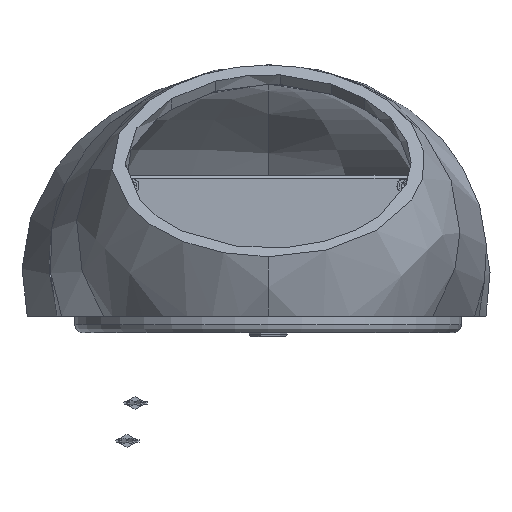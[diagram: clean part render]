
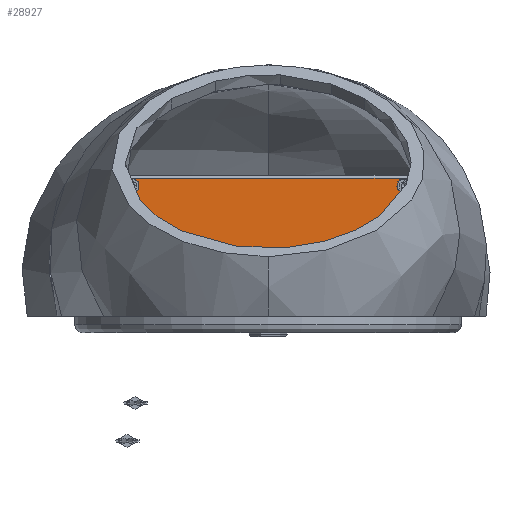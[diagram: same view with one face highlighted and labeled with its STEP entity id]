
A CAD part, front view. The second image highlights one B-rep face of the part: STEP entity #28927.
In plain terms, the highlighted planar face has unit normal (0, -1, 0) as drawn and (0, 1, 0) by its records, which use the part's own axes.
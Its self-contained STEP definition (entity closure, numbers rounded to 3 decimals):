
#1151 = EDGE_CURVE ( 'NONE', #33250, #29662, #21675, .T. ) ;
#2011 = VERTEX_POINT ( 'NONE', #2332 ) ;
#2168 = VECTOR ( 'NONE', #46007, 1000. ) ;
#2283 = DIRECTION ( 'NONE',  ( 0., -1., 0. ) ) ;
#2332 = CARTESIAN_POINT ( 'NONE',  ( 51., 3., 18.5 ) ) ;
#2450 = EDGE_CURVE ( 'NONE', #37664, #33238, #15255, .T. ) ;
#3243 = DIRECTION ( 'NONE',  ( -1., 0., 0. ) ) ;
#3555 = VECTOR ( 'NONE', #3243, 1000. ) ;
#4041 = ORIENTED_EDGE ( 'NONE', *, *, #5287, .T. ) ;
#4498 = EDGE_CURVE ( 'NONE', #12082, #55182, #43255, .T. ) ;
#4749 = DIRECTION ( 'NONE',  ( 0., -1., 0. ) ) ;
#5287 = EDGE_CURVE ( 'NONE', #19242, #40463, #57740, .T. ) ;
#5892 = DIRECTION ( 'NONE',  ( 1., 0., 0. ) ) ;
#6060 = FACE_BOUND ( 'NONE', #42943, .T. ) ;
#6928 = DIRECTION ( 'NONE',  ( 0., 0., 1. ) ) ;
#7428 = EDGE_LOOP ( 'NONE', ( #51309, #27679 ) ) ;
#7817 = DIRECTION ( 'NONE',  ( 0., 0., 1. ) ) ;
#8345 = DIRECTION ( 'NONE',  ( 0., 0., 1. ) ) ;
#8861 = FACE_OUTER_BOUND ( 'NONE', #27818, .T. ) ;
#9116 = VERTEX_POINT ( 'NONE', #21798 ) ;
#9618 = DIRECTION ( 'NONE',  ( 0., 0., 1. ) ) ;
#10289 = AXIS2_PLACEMENT_3D ( 'NONE', #43106, #25266, #6928 ) ;
#10939 = VERTEX_POINT ( 'NONE', #37206 ) ;
#11938 = DIRECTION ( 'NONE',  ( 0., 0., 1. ) ) ;
#12079 = CARTESIAN_POINT ( 'NONE',  ( 51., 3., 17.5 ) ) ;
#12082 = VERTEX_POINT ( 'NONE', #15704 ) ;
#13992 = ORIENTED_EDGE ( 'NONE', *, *, #26012, .T. ) ;
#14716 = CARTESIAN_POINT ( 'NONE',  ( 52., 3., -35.5 ) ) ;
#14767 = ORIENTED_EDGE ( 'NONE', *, *, #48207, .T. ) ;
#15255 = CIRCLE ( 'NONE', #10289, 2.75 ) ;
#15704 = CARTESIAN_POINT ( 'NONE',  ( 49.2, 3., -28.95 ) ) ;
#15869 = FACE_BOUND ( 'NONE', #26449, .T. ) ;
#16906 = EDGE_CURVE ( 'NONE', #2011, #9116, #54394, .T. ) ;
#17315 = DIRECTION ( 'NONE',  ( 0., 1., 0. ) ) ;
#17405 = CARTESIAN_POINT ( 'NONE',  ( 49.2, 3., -31.7 ) ) ;
#17489 = ORIENTED_EDGE ( 'NONE', *, *, #28103, .T. ) ;
#17606 = EDGE_CURVE ( 'NONE', #22712, #10939, #27071, .T. ) ;
#17896 = FACE_BOUND ( 'NONE', #7428, .T. ) ;
#18094 = EDGE_LOOP ( 'NONE', ( #41344, #14767 ) ) ;
#19242 = VERTEX_POINT ( 'NONE', #45204 ) ;
#19245 = DIRECTION ( 'NONE',  ( 0., -1., 0. ) ) ;
#19855 = CIRCLE ( 'NONE', #32241, 2.75 ) ;
#20028 = DIRECTION ( 'NONE',  ( 0., 0., 1. ) ) ;
#20422 = CIRCLE ( 'NONE', #39471, 2.75 ) ;
#20701 = CARTESIAN_POINT ( 'NONE',  ( -49.2, 3., 15.7 ) ) ;
#21054 = DIRECTION ( 'NONE',  ( 0., 1., 0. ) ) ;
#21138 = ORIENTED_EDGE ( 'NONE', *, *, #30718, .T. ) ;
#21675 = LINE ( 'NONE', #55938, #3555 ) ;
#21784 = CARTESIAN_POINT ( 'NONE',  ( -49.2, 3., 15.7 ) ) ;
#21798 = CARTESIAN_POINT ( 'NONE',  ( 52., 3., 17.5 ) ) ;
#22466 = DIRECTION ( 'NONE',  ( 0., 0., 1. ) ) ;
#22712 = VERTEX_POINT ( 'NONE', #25868 ) ;
#22761 = ORIENTED_EDGE ( 'NONE', *, *, #1151, .T. ) ;
#24492 = LINE ( 'NONE', #14716, #2168 ) ;
#25266 = DIRECTION ( 'NONE',  ( 0., -1., 0. ) ) ;
#25868 = CARTESIAN_POINT ( 'NONE',  ( -49.2, 3., 12.95 ) ) ;
#26012 = EDGE_CURVE ( 'NONE', #9116, #33250, #24492, .T. ) ;
#26449 = EDGE_LOOP ( 'NONE', ( #34389, #41157 ) ) ;
#27071 = CIRCLE ( 'NONE', #47560, 2.75 ) ;
#27271 = AXIS2_PLACEMENT_3D ( 'NONE', #30896, #39920, #30126 ) ;
#27655 = CARTESIAN_POINT ( 'NONE',  ( -49.2, 3., -34.45 ) ) ;
#27679 = ORIENTED_EDGE ( 'NONE', *, *, #17606, .T. ) ;
#27818 = EDGE_LOOP ( 'NONE', ( #22761, #21138, #4041, #17489, #53334, #13992 ) ) ;
#28103 = EDGE_CURVE ( 'NONE', #40463, #2011, #37630, .T. ) ;
#28380 = VERTEX_POINT ( 'NONE', #56071 ) ;
#28673 = CIRCLE ( 'NONE', #35018, 2.75 ) ;
#28699 = CARTESIAN_POINT ( 'NONE',  ( 51., 3., 18.5 ) ) ;
#28927 = ADVANCED_FACE ( 'NONE', ( #6060, #17896, #8861, #15869, #32609 ), #38874, .T. ) ;
#29386 = CARTESIAN_POINT ( 'NONE',  ( 49.2, 3., -31.7 ) ) ;
#29662 = VERTEX_POINT ( 'NONE', #46122 ) ;
#30126 = DIRECTION ( 'NONE',  ( 0., 0., 1. ) ) ;
#30599 = VECTOR ( 'NONE', #5892, 1000. ) ;
#30718 = EDGE_CURVE ( 'NONE', #29662, #19242, #39735, .T. ) ;
#30750 = VERTEX_POINT ( 'NONE', #27655 ) ;
#30896 = CARTESIAN_POINT ( 'NONE',  ( 51., 3., 17.5 ) ) ;
#32241 = AXIS2_PLACEMENT_3D ( 'NONE', #53941, #4749, #9618 ) ;
#32609 = FACE_BOUND ( 'NONE', #18094, .T. ) ;
#33238 = VERTEX_POINT ( 'NONE', #51983 ) ;
#33250 = VERTEX_POINT ( 'NONE', #47553 ) ;
#33509 = AXIS2_PLACEMENT_3D ( 'NONE', #36485, #19245, #50519 ) ;
#34389 = ORIENTED_EDGE ( 'NONE', *, *, #34751, .T. ) ;
#34561 = CARTESIAN_POINT ( 'NONE',  ( -51., 3., 17.5 ) ) ;
#34751 = EDGE_CURVE ( 'NONE', #28380, #30750, #19855, .T. ) ;
#34947 = AXIS2_PLACEMENT_3D ( 'NONE', #12079, #21054, #42975 ) ;
#35018 = AXIS2_PLACEMENT_3D ( 'NONE', #17405, #35026, #22466 ) ;
#35026 = DIRECTION ( 'NONE',  ( 0., -1., 0. ) ) ;
#35057 = AXIS2_PLACEMENT_3D ( 'NONE', #29386, #2283, #20028 ) ;
#35830 = ORIENTED_EDGE ( 'NONE', *, *, #37734, .T. ) ;
#36485 = CARTESIAN_POINT ( 'NONE',  ( -49.2, 3., -31.7 ) ) ;
#36890 = CIRCLE ( 'NONE', #55555, 2.75 ) ;
#36901 = VECTOR ( 'NONE', #45904, 1000. ) ;
#37206 = CARTESIAN_POINT ( 'NONE',  ( -49.2, 3., 18.45 ) ) ;
#37630 = LINE ( 'NONE', #28699, #30599 ) ;
#37664 = VERTEX_POINT ( 'NONE', #53505 ) ;
#37734 = EDGE_CURVE ( 'NONE', #55182, #12082, #28673, .T. ) ;
#37758 = CARTESIAN_POINT ( 'NONE',  ( -51., 3., 18.5 ) ) ;
#38448 = DIRECTION ( 'NONE',  ( 0., 0., 1. ) ) ;
#38874 = PLANE ( 'NONE',  #34947 ) ;
#38924 = DIRECTION ( 'NONE',  ( 0., -1., 0. ) ) ;
#39361 = ORIENTED_EDGE ( 'NONE', *, *, #4498, .T. ) ;
#39471 = AXIS2_PLACEMENT_3D ( 'NONE', #43128, #56153, #38448 ) ;
#39735 = LINE ( 'NONE', #41582, #36901 ) ;
#39920 = DIRECTION ( 'NONE',  ( 0., 1., 0. ) ) ;
#40463 = VERTEX_POINT ( 'NONE', #37758 ) ;
#41157 = ORIENTED_EDGE ( 'NONE', *, *, #51682, .T. ) ;
#41344 = ORIENTED_EDGE ( 'NONE', *, *, #2450, .T. ) ;
#41582 = CARTESIAN_POINT ( 'NONE',  ( -52., 3., 17.5 ) ) ;
#42943 = EDGE_LOOP ( 'NONE', ( #39361, #35830 ) ) ;
#42975 = DIRECTION ( 'NONE',  ( 0., 0., 1. ) ) ;
#43106 = CARTESIAN_POINT ( 'NONE',  ( 49.2, 3., 15.7 ) ) ;
#43128 = CARTESIAN_POINT ( 'NONE',  ( 49.2, 3., 15.7 ) ) ;
#43255 = CIRCLE ( 'NONE', #35057, 2.75 ) ;
#44475 = DIRECTION ( 'NONE',  ( 0., -1., 0. ) ) ;
#45204 = CARTESIAN_POINT ( 'NONE',  ( -52., 3., 17.5 ) ) ;
#45904 = DIRECTION ( 'NONE',  ( 0., 0., 1. ) ) ;
#46007 = DIRECTION ( 'NONE',  ( 0., 0., -1. ) ) ;
#46079 = CARTESIAN_POINT ( 'NONE',  ( 49.2, 3., -34.45 ) ) ;
#46122 = CARTESIAN_POINT ( 'NONE',  ( -52., 3., -35.5 ) ) ;
#47553 = CARTESIAN_POINT ( 'NONE',  ( 52., 3., -35.5 ) ) ;
#47560 = AXIS2_PLACEMENT_3D ( 'NONE', #20701, #38924, #11938 ) ;
#48207 = EDGE_CURVE ( 'NONE', #33238, #37664, #20422, .T. ) ;
#50519 = DIRECTION ( 'NONE',  ( 0., 0., 1. ) ) ;
#50928 = AXIS2_PLACEMENT_3D ( 'NONE', #34561, #17315, #7817 ) ;
#51309 = ORIENTED_EDGE ( 'NONE', *, *, #52139, .T. ) ;
#51682 = EDGE_CURVE ( 'NONE', #30750, #28380, #53658, .T. ) ;
#51983 = CARTESIAN_POINT ( 'NONE',  ( 49.2, 3., 12.95 ) ) ;
#52139 = EDGE_CURVE ( 'NONE', #10939, #22712, #36890, .T. ) ;
#53334 = ORIENTED_EDGE ( 'NONE', *, *, #16906, .T. ) ;
#53505 = CARTESIAN_POINT ( 'NONE',  ( 49.2, 3., 18.45 ) ) ;
#53658 = CIRCLE ( 'NONE', #33509, 2.75 ) ;
#53941 = CARTESIAN_POINT ( 'NONE',  ( -49.2, 3., -31.7 ) ) ;
#54394 = CIRCLE ( 'NONE', #27271, 1. ) ;
#55182 = VERTEX_POINT ( 'NONE', #46079 ) ;
#55555 = AXIS2_PLACEMENT_3D ( 'NONE', #21784, #44475, #8345 ) ;
#55938 = CARTESIAN_POINT ( 'NONE',  ( -53., 3., -35.5 ) ) ;
#56071 = CARTESIAN_POINT ( 'NONE',  ( -49.2, 3., -28.95 ) ) ;
#56153 = DIRECTION ( 'NONE',  ( 0., -1., 0. ) ) ;
#57740 = CIRCLE ( 'NONE', #50928, 1. ) ;
